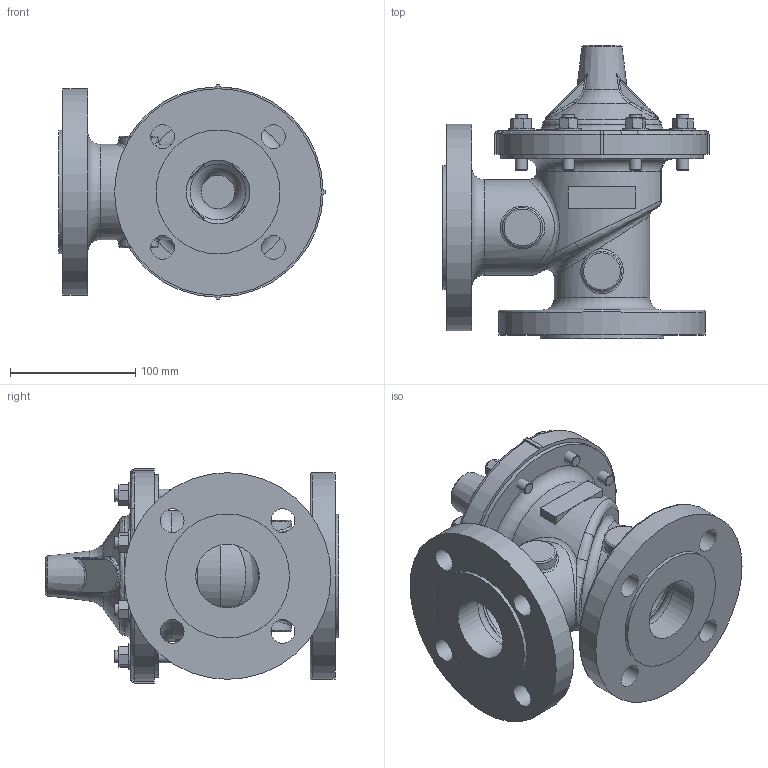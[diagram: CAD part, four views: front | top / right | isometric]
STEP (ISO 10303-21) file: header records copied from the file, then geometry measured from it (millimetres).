
FILE_DESCRIPTION(/* description */ (''),/* implementation_level */ '2;1');
FILE_NAME(/* name */ 'G:\Doc_Liberes\SymbolesCAD\Modeles_3D\FichierSTP\VanneDeBase\AE050-40RF.stp',/* time_stamp */ '2023-08-17T07:50:42+02:00',/* author */ ('theo'),/* organization */ (''),/* preprocessor_version */ 'ST-DEVELOPER v18.1',/* originating_system */ 'Autodesk Inventor 2022',/* authorisation */ '');
FILE_SCHEMA (('AUTOMOTIVE_DESIGN { 1 0 10303 214 3 1 1 }'));
Products named in the file (1): AE050_Simplifier_1
Bounding box: 212.5 x 234.55 x 171 mm (x, y, z)
Volume: 1584129.6 mm3; surface area: 321716.6 mm2
Topology: 2 solids, 2 shells, 1186 faces, 3095 edges, 1996 vertices
Faces by surface type: plane 560, bspline 243, cone 192, cylinder 115, torus 74, sphere 2
Full cylindrical faces by diameter (mm): 7.8 x1, 9.525 x16, 19 x8, 20.625 x8, 27 x1, 31.75 x4, 50.8 x2, 58.6 x1, 63.4 x1, 63.5 x1, 76 x1, 76.2 x1, 76.3 x1, 78.867 x1, 78.9 x1, 99 x2, 161.77 x1, 162 x1, 165.1 x2
Entity records: 43721 total; most frequent: CARTESIAN_POINT 16536, ORIENTED_EDGE 6178, DIRECTION 4907, EDGE_CURVE 3089, VERTEX_POINT 1996, AXIS2_PLACEMENT_3D 1809, EDGE_LOOP 1299, LINE 1289
